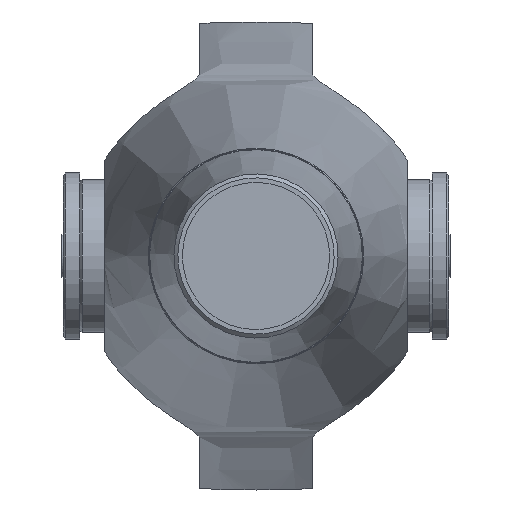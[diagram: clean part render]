
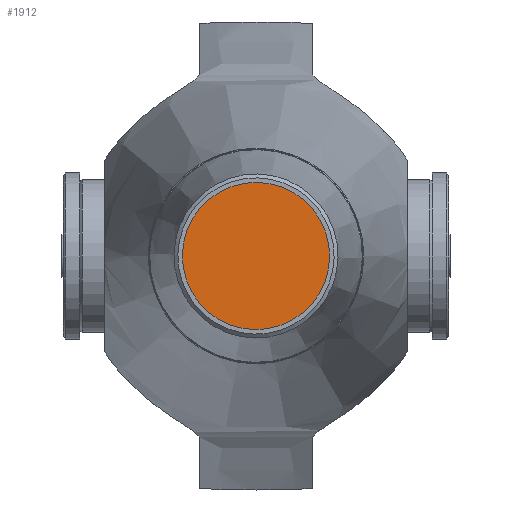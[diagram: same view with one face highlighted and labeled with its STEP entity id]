
A CAD part, left-side view. The second image highlights one B-rep face of the part: STEP entity #1912.
In plain terms, the highlighted planar face has unit normal (-1, 0, 0).
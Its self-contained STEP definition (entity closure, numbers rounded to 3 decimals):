
#119=PLANE('',#2072);
#177=FACE_OUTER_BOUND('',#287,.T.);
#287=EDGE_LOOP('',(#1262,#1263));
#638=CIRCLE('',#2070,62.);
#639=CIRCLE('',#2071,62.);
#759=VERTEX_POINT('',#2899);
#760=VERTEX_POINT('',#2901);
#960=EDGE_CURVE('',#760,#759,#638,.T.);
#961=EDGE_CURVE('',#759,#760,#639,.T.);
#1262=ORIENTED_EDGE('',*,*,#960,.T.);
#1263=ORIENTED_EDGE('',*,*,#961,.T.);
#1912=ADVANCED_FACE('',(#177),#119,.T.);
#2070=AXIS2_PLACEMENT_3D('',#2902,#2342,#2343);
#2071=AXIS2_PLACEMENT_3D('',#2903,#2344,#2345);
#2072=AXIS2_PLACEMENT_3D('',#2904,#2346,#2347);
#2342=DIRECTION('center_axis',(-1.,0.,0.));
#2343=DIRECTION('ref_axis',(0.,0.359,-0.934));
#2344=DIRECTION('center_axis',(-1.,0.,0.));
#2345=DIRECTION('ref_axis',(0.,0.359,-0.934));
#2346=DIRECTION('center_axis',(-1.,0.,0.));
#2347=DIRECTION('ref_axis',(0.,0.359,-0.934));
#2899=CARTESIAN_POINT('',(-1220.,-57.878,-22.228));
#2901=CARTESIAN_POINT('',(-1220.,57.878,22.228));
#2902=CARTESIAN_POINT('Origin',(-1220.,0.,0.));
#2903=CARTESIAN_POINT('Origin',(-1220.,0.,0.));
#2904=CARTESIAN_POINT('Origin',(-1220.,0.,0.));
